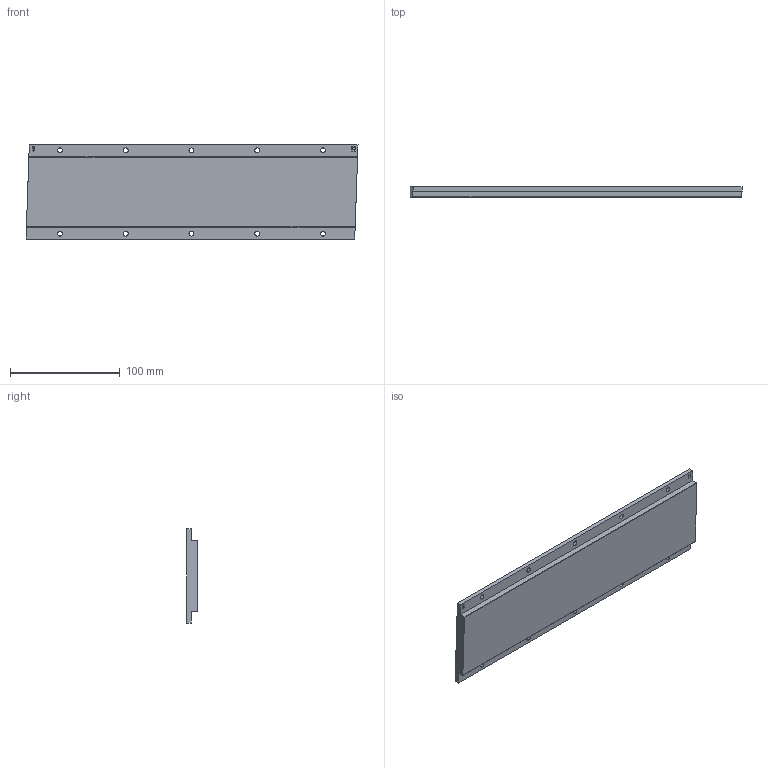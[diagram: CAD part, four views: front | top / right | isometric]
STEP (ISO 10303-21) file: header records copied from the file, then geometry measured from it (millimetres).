
FILE_DESCRIPTION( ( 'Unknown' ), '1' );
FILE_NAME( 'C:/Users/gyt/Desktop/电机制造图/DPD/DPD修改/官网3D/DPD86M300.stp', 'Unknown', ( 'Unknown' ), ( 'Unknown' ), 'PSStep 17.0.49', 'Unknown', ' ' );
FILE_SCHEMA( ( 'AUTOMOTIVE_DESIGN { 1 0 10303 214 1 1 1 1 }' ) );
Length unit declared in the file: millimetre
Products named in the file (1): 1
Bounding box: 303 x 9.6 x 86 mm (x, y, z)
Volume: 210734.1 mm3; surface area: 58918.6 mm2
Topology: 1 solids, 1 shells, 40 faces, 108 edges, 72 vertices
Faces by surface type: plane 22, cylinder 12, extrusion 6
Full cylindrical faces by diameter (mm): 4.5 x10
Entity records: 1815 total; most frequent: CARTESIAN_POINT 508, ORIENTED_EDGE 196, DIRECTION 166, EDGE_CURVE 98, EDGE_LOOP 72, VERTEX_POINT 72, AXIS2_PLACEMENT_3D 59, FACE_OUTER_BOUND 50
